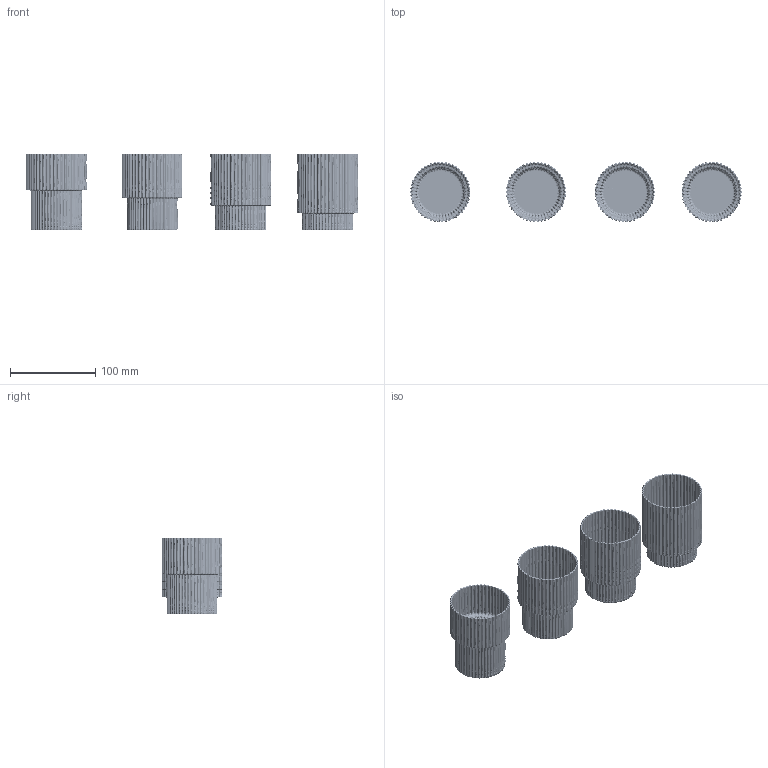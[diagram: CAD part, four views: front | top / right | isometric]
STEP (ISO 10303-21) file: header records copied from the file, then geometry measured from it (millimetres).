
FILE_DESCRIPTION(/* description */ (''),/* implementation_level */ '2;1');
FILE_NAME(/* name */ 'Ripple glasses - Set of 4_3D',/* time_stamp */ '2023-11-22T10:49:37+01:00',/* author */ (''),/* organization */ (''),/* preprocessor_version */ 'ST-DEVELOPER v16.5',/* originating_system */ 'Rhino 7.34',/* authorisation */ '');
FILE_SCHEMA (('CONFIG_CONTROL_DESIGN'));
Length unit declared in the file: millimetre
Products named in the file (1): Document
Bounding box: 388.68 x 70.82 x 90.04 mm (x, y, z)
Volume: 112322.5 mm3; surface area: 197651.9 mm2
Topology: 4 solids, 4 shells, 804 faces, 2400 edges, 808 vertices
Faces by surface type: bspline 800, plane 4
Entity records: 103352 total; most frequent: CARTESIAN_POINT 95214, ORIENTED_EDGE 3200, EDGE_CURVE 1600, EDGE_LOOP 808, VERTEX_POINT 808, ADVANCED_FACE 804, FACE_OUTER_BOUND 804, DIRECTION 8
